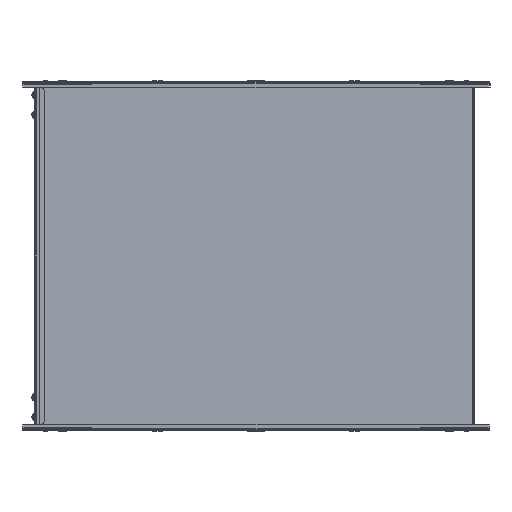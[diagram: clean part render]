
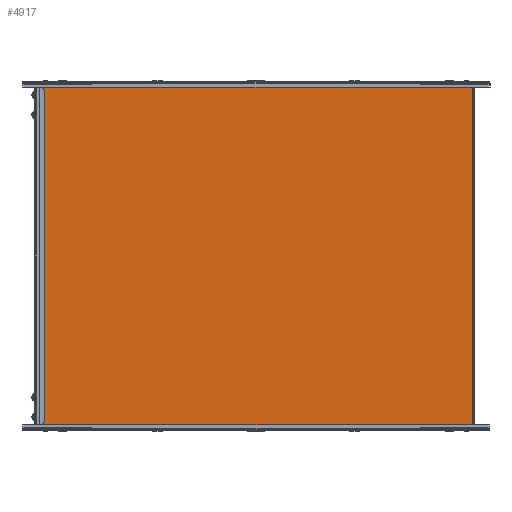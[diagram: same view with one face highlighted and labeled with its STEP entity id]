
A CAD part, left-side view. The second image highlights one B-rep face of the part: STEP entity #4917.
In plain terms, the highlighted planar face has unit normal (-1, 0, 0).
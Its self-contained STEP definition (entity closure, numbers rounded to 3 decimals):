
#510 = LINE ( 'NONE', #19942, #523 ) ;
#523 = VECTOR ( 'NONE', #19920, 1000. ) ;
#1578 = AXIS2_PLACEMENT_3D ( 'NONE', #30918, #30923, #30924 ) ;
#4529 = VERTEX_POINT ( 'NONE', #25272 ) ;
#4917 = ADVANCED_FACE ( 'NONE', ( #6208 ), #30920, .T. ) ;
#6208 = FACE_OUTER_BOUND ( 'NONE', #28812, .T. ) ;
#7506 = CARTESIAN_POINT ( 'NONE',  ( -499.8, 500., -197.5 ) ) ;
#8585 = CARTESIAN_POINT ( 'NONE',  ( -499.8, 1.2, -197.5 ) ) ;
#12563 = CARTESIAN_POINT ( 'NONE',  ( -499.8, 500., 197.5 ) ) ;
#12569 = DIRECTION ( 'NONE',  ( 0., 0., 1. ) ) ;
#12713 = CARTESIAN_POINT ( 'NONE',  ( -499.8, 1.2, 0. ) ) ;
#12720 = DIRECTION ( 'NONE',  ( 0., 0., 1. ) ) ;
#13147 = VERTEX_POINT ( 'NONE', #27682 ) ;
#13500 = EDGE_CURVE ( 'NONE', #4529, #13147, #510, .T. ) ;
#16394 = EDGE_CURVE ( 'NONE', #29672, #4529, #21264, .T. ) ;
#16452 = EDGE_CURVE ( 'NONE', #23319, #13147, #21345, .T. ) ;
#16624 = EDGE_CURVE ( 'NONE', #23319, #29672, #21567, .T. ) ;
#19920 = DIRECTION ( 'NONE',  ( 0., -1., 0. ) ) ;
#19942 = CARTESIAN_POINT ( 'NONE',  ( -499.8, 0., 197.5 ) ) ;
#21264 = LINE ( 'NONE', #12563, #21268 ) ;
#21268 = VECTOR ( 'NONE', #12569, 1000. ) ;
#21345 = LINE ( 'NONE', #12713, #21347 ) ;
#21347 = VECTOR ( 'NONE', #12720, 1000. ) ;
#21567 = LINE ( 'NONE', #32448, #21569 ) ;
#21569 = VECTOR ( 'NONE', #32449, 1000. ) ;
#23319 = VERTEX_POINT ( 'NONE', #8585 ) ;
#25272 = CARTESIAN_POINT ( 'NONE',  ( -499.8, 500., 197.5 ) ) ;
#27682 = CARTESIAN_POINT ( 'NONE',  ( -499.8, 1.2, 197.5 ) ) ;
#28812 = EDGE_LOOP ( 'NONE', ( #29237, #29240, #29242, #29245 ) ) ;
#29237 = ORIENTED_EDGE ( 'NONE', *, *, #16624, .F. ) ;
#29240 = ORIENTED_EDGE ( 'NONE', *, *, #16452, .T. ) ;
#29242 = ORIENTED_EDGE ( 'NONE', *, *, #13500, .F. ) ;
#29245 = ORIENTED_EDGE ( 'NONE', *, *, #16394, .F. ) ;
#29672 = VERTEX_POINT ( 'NONE', #7506 ) ;
#30918 = CARTESIAN_POINT ( 'NONE',  ( -499.8, 0., 0. ) ) ;
#30920 = PLANE ( 'NONE',  #1578 ) ;
#30923 = DIRECTION ( 'NONE',  ( -1., 0., 0. ) ) ;
#30924 = DIRECTION ( 'NONE',  ( 0., -1., 0. ) ) ;
#32448 = CARTESIAN_POINT ( 'NONE',  ( -499.8, 500., -197.5 ) ) ;
#32449 = DIRECTION ( 'NONE',  ( 0., 1., 0. ) ) ;
